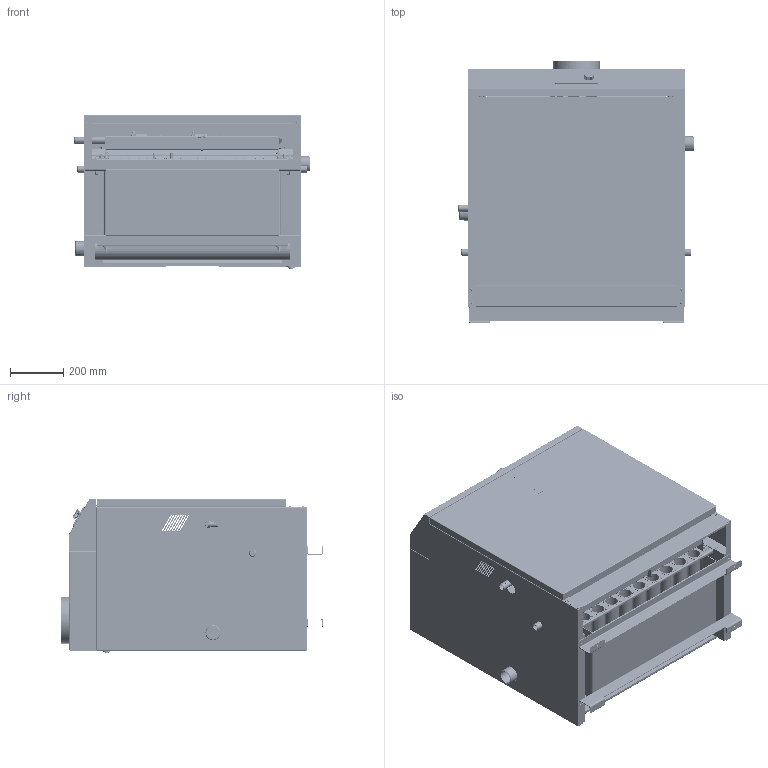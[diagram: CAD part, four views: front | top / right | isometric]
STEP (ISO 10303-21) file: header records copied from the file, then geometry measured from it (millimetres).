
FILE_DESCRIPTION(('STEP AP242'), '1');
FILE_NAME('ﾒﾈﾒﾀﾍ 2016', '', ('UNSPECIFIED'), ('UNSPECIFIED'), 'ASCON STEP Converter 1.6', 'ASCON Math Kernel', '');
FILE_SCHEMA(('AP242_MANAGED_MODEL_BASED_3D_ENGINEERING_MIM_LF { 1 0 10303 442 1 1 4 }'));
Length unit declared in the file: millimetre
Products named in the file (120): КЕВМ.3105.00.00.000-17; КЕВМ.3105.01.00.000-07; -07; КЕВМ.3103.01.01.002-07; КЕВМ.3105.01.02.000-07; КЕВМ.3105.01.02.005-07; КЕВМ.3105.01.02.001-02; КЕВМ.3103.01.02.003-07; КЕВМ.3103.01.02.004-02; КЕВМ.3103.01.02.007; КЕВМ.3105.01.02.001-03; -01; Заглушка Ду15; Клапан манометра 1_2'''' х 1_4''''; Колба защитная; Кран маевского; Заглушка Ду50; КЕВМ.3105.03.00.000-02; КЕВМ.3105.02.00.001-07; КЕВМ.3105.03.01.000-02; КЕВМ.3105.03.01.010-02; КЕВМ.3103.03.01.011-02; КЕВМ.3103.03.01.013; КЕВМ.3103.02.01.002; КЕВМ.3105.02.01.004; КЕВМ.3105.03.01.020-01; КЕВМ.3103.03.01.021-01; КЕВМ.3105.02.00.002-07; КЕВМ.3105.03.02.000-01; КЕВМ.3105.03.02.001-01; КЕВМ.3103.03.02.003; КЕВМ.3105.02.01.004-02; -03; -27; КЕВМ.3105.00.00.003-07; КЕВМ.3105.00.00.002-07; КЕВМ.3105.00.00.004-07; Термостат аварийный IMIT; Колпачек термостата; Значек нет тчги 10х10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
Assembly tree (244 placements, depth 5):
  КЕВМ.3105.00.00.000-17
    КЕВМ.3105.01.00.000-07
      -07
      -07
        -07
        КЕВМ.3103.01.01.002-07  x2
      КЕВМ.3105.01.02.000-07
        КЕВМ.3105.01.02.005-07
        КЕВМ.3105.01.02.001-02
        -07
        -07
        КЕВМ.3103.01.02.003-07
        КЕВМ.3103.01.02.004-02
        КЕВМ.3103.01.02.007
        КЕВМ.3105.01.02.001-03
      -07
      -07
      (unnamed)
      -01
      Заглушка Ду15
      Клапан манометра 1_2'''' х 1_4''''
      Колба защитная
      Кран маевского
      Заглушка Ду50  x2
      (unnamed)  x2
      (unnamed)  x2
      (unnamed)  x4
      (unnamed)  x6
      (unnamed)  x2
      (unnamed)  x2
    КЕВМ.3105.03.00.000-02
      КЕВМ.3105.02.00.001-07
      КЕВМ.3105.03.01.000-02
        КЕВМ.3105.03.01.010-02
          КЕВМ.3103.03.01.011-02
          КЕВМ.3103.03.01.013
          КЕВМ.3103.02.01.002
          КЕВМ.3105.02.01.004
          (unnamed)
        КЕВМ.3105.03.01.020-01
          КЕВМ.3103.03.01.021-01
          КЕВМ.3103.03.01.013
          КЕВМ.3103.02.01.002
          (unnamed)
          КЕВМ.3105.02.01.004
        (unnamed)  x2
          (unnamed)
          (unnamed)
          (unnamed)
          (unnamed)
      КЕВМ.3105.02.00.002-07
      (unnamed)
      (unnamed)
      (unnamed)  x2
      (unnamed)  x2
      (unnamed)  x2
      (unnamed)  x2
        (unnamed)
      КЕВМ.3105.03.02.000-01
        КЕВМ.3105.03.02.001-01
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Bounding box: 888.5 x 986.1 x 583.81 mm (x, y, z)
Volume: 125002295 mm3; surface area: 16303245.5 mm2
Topology: 269 solids, 269 shells, 10503 faces, 27570 edges, 18018 vertices
Faces by surface type: plane 5655, cylinder 3970, bspline 382, cone 207, torus 138, sphere 79, extrusion 72
Full cylindrical faces by diameter (mm): 0.7 x1188, 1 x1, 1.5 x8, 2 x9, 2.5 x13, 2.7 x4, 2.9 x21, 3 x38, 3.2 x56, 3.242 x1, 3.3 x8, 3.5 x50, 4 x68, 4.2 x10, 4.4 x1, 4.5 x12, 4.7 x1, 4.917 x2, 5 x18, 5.6 x17, 5.8 x1, 6 x11, 6.6 x4, 6.647 x10, 6.917 x4, 6.95 x2, 7 x11, 7.8 x2, 8 x36, 8.5 x4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
Entity records: 192210 total; most frequent: CARTESIAN_POINT 64219, DIRECTION 21987, ORIENTED_EDGE 21668, EDGE_CURVE 10834, AXIS2_PLACEMENT_3D 7412, VERTEX_POINT 7300, VECTOR 7163, LINE 7091
